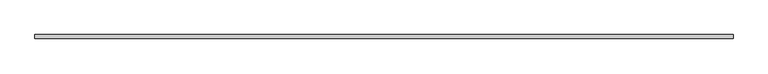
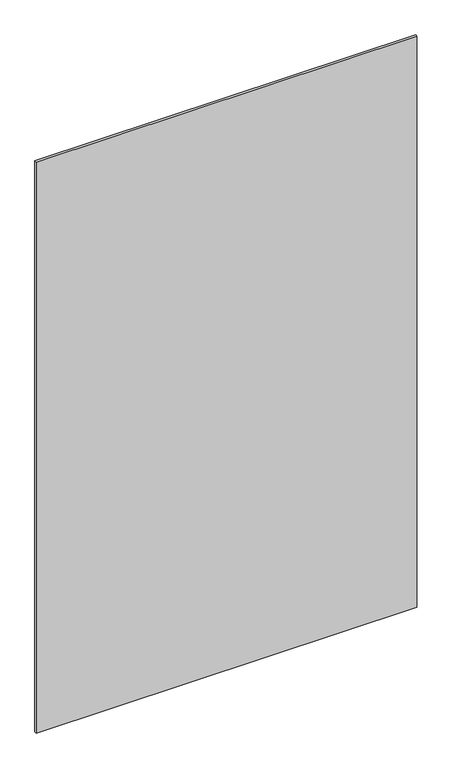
"""IFC4 building model written with IfcOpenShell, lengths in millimetres: plate geometry, 系統嵌板 : 玻璃 1.0cm."""

from ifc_helpers import new_model, si_unit, origin, origin_with_axes, place, context, project, spatial, polyline, outline, extrude, source, transform, mapped, element, save


def plate_01dbb522(model_context):
    return source(origin(), model_context, "Body", "SweptSolid", [
        extrude(outline(polyline([(875.0, -5.0), (-875.0, -5.0), (-875.0, 5.0), (875.0, 5.0), (875.0, -5.0)])), origin_with_axes(), (0.0, 0.0, 1.0), 2775.0),
    ])


if __name__ == "__main__":
    model = new_model("IFC4")
    model_context = context("Model", 3, world=origin())
    ifc_project = project(units=[si_unit("LENGTHUNIT", "METRE", prefix="MILLI")], contexts=[model_context])
    site = spatial("IfcSite", under=ifc_project)
    building = spatial("IfcBuilding", under=site)
    placement = place(None, origin())
    plate_shape = plate_01dbb522(model_context)
    element("IfcPlate", 1, ObjectType="系統嵌板 : 玻璃 1.0cm", at=placement, inside=building, context=model_context, shape_type="MappedRepresentation", body=[
        mapped(plate_shape, transform((0.0, 0.0, 0.0), x_axis=(1.0, 0.0, 0.0), y_axis=(0.0, 1.0, 0.0), z_axis=(0.0, 0.0, 1.0))),
    ])
    save(model, "model.ifc")
